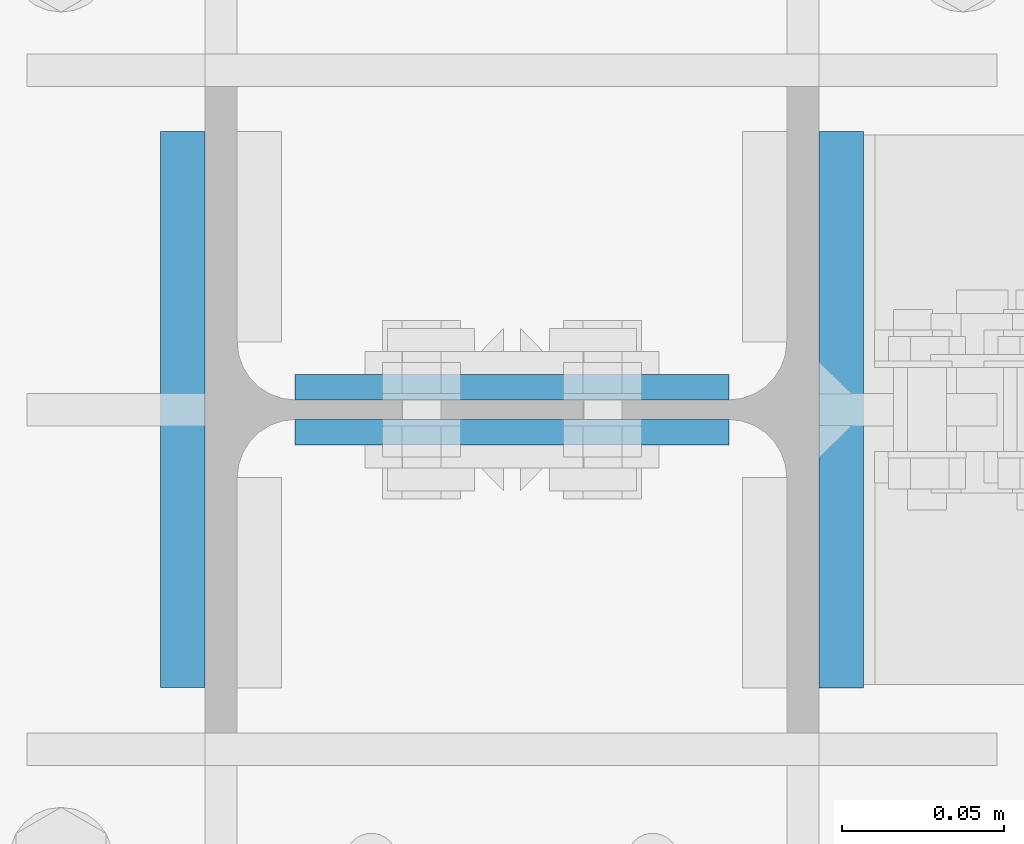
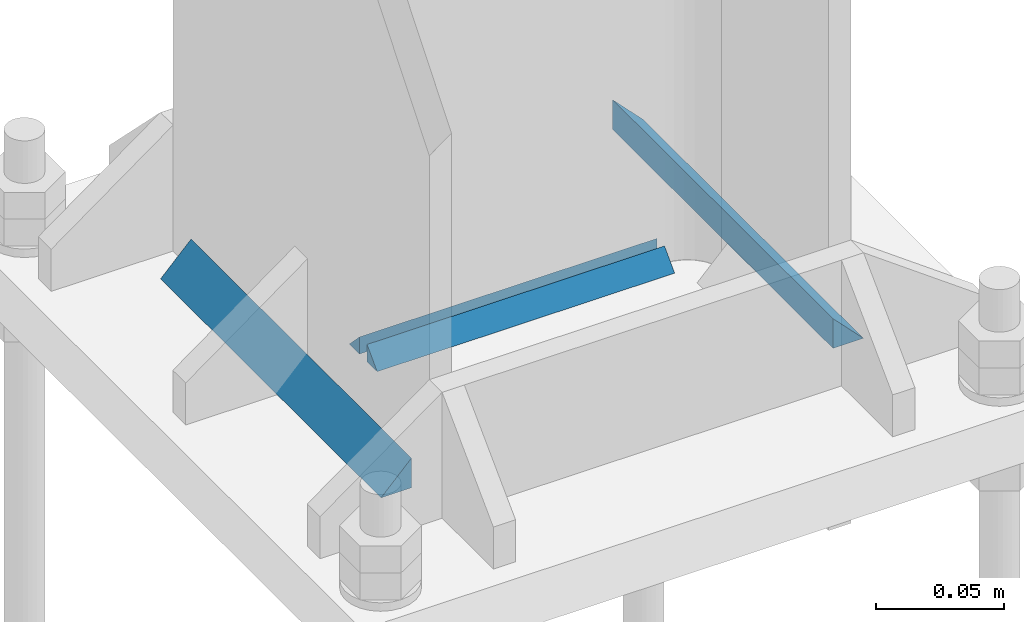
# One storey, part 37 of 251: 8 fasteners.
"""IFC4 building model written with IfcOpenShell, lengths in metres."""

import ifcopenshell
import ifcopenshell.guid

model = None  # the IFC model being written
_history = None  # IfcOwnerHistory: only IFC2X3 demands one
_inside = {}  # id of a spatial element -> (the spatial element, [elements in it])
_under = {}  # id of a project, library or spatial element -> (it, [spatial elements below it])
_declared = {}  # id of a project -> (the project, [libraries it declares])
_typed = {}  # id of a type object -> (the type object, [elements of that type])
_made_of = {}  # id of a material, layer set ... -> (it, [elements and type objects made of it])


def new_model(schema):
    """Start an empty IFC model of exactly this schema.

    Asked for "IFC4X3", IfcOpenShell would pick the latest addendum, in which some entities
    have other attributes; the version numbers below select the first issue.
    IFC2X3 requires an IfcOwnerHistory on every rooted entity: one is made here for all.
    """
    global model, _history
    if schema == "IFC4X3":
        model = ifcopenshell.file(schema_version=(4, 3, 0, 0))
    else:
        model = ifcopenshell.file(schema=schema)
    _inside.clear()
    _under.clear()
    _declared.clear()
    _typed.clear()
    _made_of.clear()
    _history = None
    if model.schema == "IFC2X3":
        org = make("IfcOrganization", Name="unknown")
        user = make(
            "IfcPersonAndOrganization",
            ThePerson=make("IfcPerson", FamilyName="unknown"),
            TheOrganization=org,
        )
        app = make(
            "IfcApplication",
            ApplicationDeveloper=org,
            Version="unknown",
            ApplicationFullName="unknown",
            ApplicationIdentifier="unknown",
        )
        _history = make(
            "IfcOwnerHistory",
            OwningUser=user,
            OwningApplication=app,
            ChangeAction="ADDED",
            CreationDate=0,
        )
    return model


def make(cls, **values):
    """One entity of the class cls with the attributes given. An attribute that is None is left unset."""
    return model.create_entity(
        cls, **{name: value for name, value in values.items() if value is not None}
    )


def rooted(cls, **values):
    """An entity with a GlobalId (a new one), such as an element, a storey or a relation."""
    return make(cls, GlobalId=ifcopenshell.guid.new(), OwnerHistory=_history, **values)


def si_unit(unit_type, name, prefix=None):
    """IfcSIUnit, for example si_unit("LENGTHUNIT", "METRE", prefix="MILLI")."""
    return make("IfcSIUnit", UnitType=unit_type, Prefix=prefix, Name=name)


def assignment(units):
    """IfcUnitAssignment: the units of a project."""
    return None if units is None else make("IfcUnitAssignment", Units=units)


def point(xyz):
    """IfcCartesianPoint."""
    return None if xyz is None else make("IfcCartesianPoint", Coordinates=xyz)


def direction(xyz):
    """IfcDirection."""
    return None if xyz is None else make("IfcDirection", DirectionRatios=xyz)


def frame(location, z_axis=None, x_axis=None):
    """IfcAxis2Placement3D, a coordinate frame: its origin and axes. An axis left out is left unset."""
    return make(
        "IfcAxis2Placement3D",
        Location=point(location),
        Axis=direction(z_axis),
        RefDirection=direction(x_axis),
    )


def origin_with_axes():
    """The frame at (0, 0, 0) with the z axis (0, 0, 1) and the x axis (1, 0, 0) written out."""
    return frame((0.0, 0.0, 0.0), z_axis=(0.0, 0.0, 1.0), x_axis=(1.0, 0.0, 0.0))


def place(relative_to, where):
    """IfcLocalPlacement: puts the frame where relative to a parent placement (None: the world)."""
    return make(
        "IfcLocalPlacement", PlacementRelTo=relative_to, RelativePlacement=where
    )


def context(
    kind, dimensions, precision=None, world=None, true_north=None, identifier=None
):
    """IfcGeometricRepresentationContext, for example the 3D "Model" context."""
    return make(
        "IfcGeometricRepresentationContext",
        ContextIdentifier=identifier,
        ContextType=kind,
        CoordinateSpaceDimension=dimensions,
        Precision=precision,
        WorldCoordinateSystem=world,
        TrueNorth=true_north,
    )


def project(units=None, contexts=None):
    """IfcProject with its units and contexts."""
    return rooted(
        "IfcProject",
        Name="project",
        RepresentationContexts=contexts,
        UnitsInContext=assignment(units),
    )


def spatial(cls, under=None, at=None, **own):
    """A site, building, storey or space (cls), placed at a placement, below another one or the project."""
    s = rooted(cls, ObjectPlacement=at, **own)
    if under is not None:
        _under.setdefault(under.id(), (under, []))[1].append(s)
    return s


def polyline(points):
    """IfcPolyline through the points."""
    return make("IfcPolyline", Points=[point(p) for p in points])


def outline(outer, holes=None, kind="AREA"):
    """IfcArbitraryClosedProfileDef: a profile drawn as a closed curve; with holes, ...WithVoids."""
    if holes is None:
        return make("IfcArbitraryClosedProfileDef", ProfileType=kind, OuterCurve=outer)
    return make(
        "IfcArbitraryProfileDefWithVoids",
        ProfileType=kind,
        OuterCurve=outer,
        InnerCurves=holes,
    )


def extrude(swept, where, along, depth):
    """IfcExtrudedAreaSolid: the profile swept, set in the frame where, extruded along a direction by depth."""
    return make(
        "IfcExtrudedAreaSolid",
        SweptArea=swept,
        Position=where,
        ExtrudedDirection=direction(along),
        Depth=depth,
    )


def shape(context_of_items, identifier, shape_type, items):
    """IfcShapeRepresentation: the items that make up one representation, for example the "Body"."""
    return make(
        "IfcShapeRepresentation",
        ContextOfItems=context_of_items,
        RepresentationIdentifier=identifier,
        RepresentationType=shape_type,
        Items=items,
    )


def made_of(thing, what):
    """Note that an element or type object is made of a material, layer set ...; save() writes the relation."""
    if what is not None:
        _made_of.setdefault(what.id(), (what, []))[1].append(thing)
    return thing


def type_object(cls, material=None, **own):
    """A type object (cls), such as IfcWallType, which elements share."""
    return made_of(rooted(cls, **own), material)


def element(
    cls,
    number,
    at=None,
    inside=None,
    cuts=None,
    type_object=None,
    material=None,
    context=None,
    identifier="Body",
    shape_type=None,
    held_by="IfcProductDefinitionShape",
    body=None,
    shapes=None,
    **own,
):
    """One element of the class cls, such as IfcWall. Its Tag is "e" and its number.

    at: its placement. inside: the storey or other place that contains it. cuts: it is an
    opening in that element (IfcRelVoidsElement). A single representation is given by context,
    identifier, shape_type and body (its items); several are given by shapes. held_by: the class
    of the entity that holds the representations. save() writes the other relations.
    """
    e = rooted(cls, Tag="e%d" % number, ObjectPlacement=at, **own)
    if body is not None:
        shapes = [shape(context, identifier, shape_type, body)]
    if shapes is not None:
        e.Representation = make(held_by, Representations=shapes)
    if inside is not None:
        _inside.setdefault(inside.id(), (inside, []))[1].append(e)
    if cuts is not None:
        rooted(
            "IfcRelVoidsElement", RelatingBuildingElement=cuts, RelatedOpeningElement=e
        )
    if type_object is not None:
        _typed.setdefault(type_object.id(), (type_object, []))[1].append(e)
    return made_of(e, material)


def aggregate(whole, parts):
    """IfcRelAggregates: a whole, such as a stair, and the parts it consists of."""
    return rooted("IfcRelAggregates", RelatingObject=whole, RelatedObjects=parts)


def save(model, path):
    """Write the relations noted so far, then the file.

    IfcRelAggregates (storeys below a building ...), IfcRelContainedInSpatialStructure (elements
    in a storey), IfcRelDefinesByType, IfcRelAssociatesMaterial and IfcRelDeclares: one each for
    every whole, place, type object, material and project.
    """
    for whole, parts in _under.values():
        aggregate(whole, parts)
    for where, things in _inside.values():
        rooted(
            "IfcRelContainedInSpatialStructure",
            RelatedElements=things,
            RelatingStructure=where,
        )
    for kind, things in _typed.values():
        rooted("IfcRelDefinesByType", RelatedObjects=things, RelatingType=kind)
    for what, things in _made_of.values():
        rooted("IfcRelAssociatesMaterial", RelatedObjects=things, RelatingMaterial=what)
    for by, libraries in _declared.values():
        rooted("IfcRelDeclares", RelatingContext=by, RelatedDefinitions=libraries)
    model.write(path)


model = new_model("IFC4")

# Units and contexts
model_context = context("Model", 3, precision=1e-05, world=origin_with_axes())
ifc_project = project(units=[si_unit("LENGTHUNIT", "METRE"), si_unit("AREAUNIT", "SQUARE_METRE"), si_unit("VOLUMEUNIT", "CUBIC_METRE"), si_unit("MASSUNIT", "GRAM", prefix="KILO"), si_unit("TIMEUNIT", "SECOND"), si_unit("PLANEANGLEUNIT", "RADIAN"), si_unit("SOLIDANGLEUNIT", "STERADIAN"), si_unit("THERMODYNAMICTEMPERATUREUNIT", "DEGREE_CELSIUS")], contexts=[model_context])

# Site, building, storey
placement_1 = place(None, origin_with_axes())
site = spatial("IfcSite", under=ifc_project, at=placement_1, Name="Italia", CompositionType="ELEMENT")
building = spatial("IfcBuilding", under=site, at=placement_1, Name="Deposito", CompositionType="ELEMENT")
storey = spatial("IfcBuildingStorey", under=building, at=placement_1, Name="Storey 0", CompositionType="ELEMENT", Elevation=0.0)

# Fasteners
fastener_type_1 = type_object("IfcFastenerType", Name="Collegamenti 0014_-001 0016_-054 0018_-056 0032_-002 0033_-058 0047_-003 0048_-060 0062_-004 0063_-005 0079_-008", PredefinedType="WELD")
placement_2 = place(placement_1, origin_with_axes())
fastener_1_placement = place(placement_2, origin_with_axes())
element("IfcFastener", 1, at=fastener_1_placement, inside=storey, type_object=fastener_type_1, Name="Collegamenti 0014_-001 0016_-054 0018_-056 0032_-002 0033_-058 0047_-003 0048_-060 0062_-004 0063_-005 0079_-008", context=model_context, shape_type="SweptSolid", body=[
    extrude(outline(polyline([(0.0, 0.0), (0.0137482, 0.0141734), (0.0137482, 0.0), (0.0, 0.0)])), frame((5.9413, 15.0861, 0.07495), z_axis=(0.0, -1.0, 0.0), x_axis=(1.0, 0.0, 0.0)), (0.0, 0.0, 1.0), 0.1721),
])
fastener_type_2 = type_object("IfcFastenerType", Name="Collegamenti 0014_-001 0016_-054 0018_-056 0032_-002 0033_-058 0047_-003 0048_-060 0062_-004 0063_-005 0079_-008", PredefinedType="WELD")
fastener_2_placement = place(placement_2, origin_with_axes())
element("IfcFastener", 2, at=fastener_2_placement, inside=storey, type_object=fastener_type_2, Name="Collegamenti 0014_-001 0016_-054 0018_-056 0032_-002 0033_-058 0047_-003 0048_-060 0062_-004 0063_-005 0079_-008", context=model_context, shape_type="SweptSolid", body=[
    extrude(outline(polyline([(0.0, 0.0), (0.0137482, 0.0141734), (0.0137482, 0.0), (0.0, 0.0)])), frame((6.1587, 14.9139, 0.07495), z_axis=(0.0, 1.0, 0.0), x_axis=(-1.0, 0.0, 0.0)), (0.0, 0.0, 1.0), 0.1721),
])
fastener_type_3 = type_object("IfcFastenerType", Name="Collegamenti 0014_-001 0016_-054 0018_-056 0032_-002 0033_-058 0047_-003 0048_-060 0062_-004 0063_-005 0079_-008", PredefinedType="WELD")
fastener_3_placement = place(placement_2, origin_with_axes())
element("IfcFastener", 3, at=fastener_3_placement, inside=storey, type_object=fastener_type_3, Name="Collegamenti 0014_-001 0016_-054 0018_-056 0032_-002 0033_-058 0047_-003 0048_-060 0062_-004 0063_-005 0079_-008", context=model_context, shape_type="SweptSolid", body=[
    extrude(outline(polyline([(0.0, 0.0), (0.00792885, 0.00817336), (0.00792885, 0.0), (0.0, 0.0)])), frame((6.11705, 15.0109, 0.07495), z_axis=(-1.0, 0.0, 0.0), x_axis=(0.0, -1.0, 0.0)), (0.0, 0.0, 1.0), 0.134098),
])
fastener_type_4 = type_object("IfcFastenerType", Name="Collegamenti 0014_-001 0016_-054 0018_-056 0032_-002 0033_-058 0047_-003 0048_-060 0062_-004 0063_-005 0079_-008", PredefinedType="WELD")
fastener_4_placement = place(placement_2, origin_with_axes())
element("IfcFastener", 4, at=fastener_4_placement, inside=storey, type_object=fastener_type_4, Name="Collegamenti 0014_-001 0016_-054 0018_-056 0032_-002 0033_-058 0047_-003 0048_-060 0062_-004 0063_-005 0079_-008", context=model_context, shape_type="SweptSolid", body=[
    extrude(outline(polyline([(0.0, 0.0), (0.00792885, 0.00817336), (0.00792885, 0.0), (0.0, 0.0)])), frame((5.98295, 14.9891, 0.07495), z_axis=(1.0, 0.0, 0.0), x_axis=(0.0, 1.0, 0.0)), (0.0, 0.0, 1.0), 0.134098),
])
fastener_type_5 = type_object("IfcFastenerType", Name="Collegamenti 0014_-001 0016_-054 0018_-056 0032_-002 0033_-058 0047_-003 0048_-060 0062_-004 0063_-005 0079_-008", PredefinedType="WELD")
fastener_5_placement = place(placement_2, origin_with_axes())
element("IfcFastener", 5, at=fastener_5_placement, inside=storey, type_object=fastener_type_5, Name="Collegamenti 0014_-001 0016_-054 0018_-056 0032_-002 0033_-058 0047_-003 0048_-060 0062_-004 0063_-005 0079_-008", context=model_context, shape_type="SweptSolid", body=[
    extrude(outline(polyline([(0.0, 0.0), (0.0137482, 0.0141734), (0.0137482, 0.0), (0.0, 0.0)])), frame((5.9413, 15.0861, 0.07495), z_axis=(0.0, -1.0, 0.0), x_axis=(1.0, 0.0, 0.0)), (0.0, 0.0, 1.0), 0.1721),
])
fastener_type_6 = type_object("IfcFastenerType", Name="Collegamenti 0014_-001 0016_-054 0018_-056 0032_-002 0033_-058 0047_-003 0048_-060 0062_-004 0063_-005 0079_-008", PredefinedType="WELD")
fastener_6_placement = place(placement_2, origin_with_axes())
element("IfcFastener", 6, at=fastener_6_placement, inside=storey, type_object=fastener_type_6, Name="Collegamenti 0014_-001 0016_-054 0018_-056 0032_-002 0033_-058 0047_-003 0048_-060 0062_-004 0063_-005 0079_-008", context=model_context, shape_type="SweptSolid", body=[
    extrude(outline(polyline([(0.0, 0.0), (0.0137482, 0.0141734), (0.0137482, 0.0), (0.0, 0.0)])), frame((6.1587, 14.9139, 0.07495), z_axis=(0.0, 1.0, 0.0), x_axis=(-1.0, 0.0, 0.0)), (0.0, 0.0, 1.0), 0.1721),
])
fastener_type_7 = type_object("IfcFastenerType", Name="Collegamenti 0014_-001 0016_-054 0018_-056 0032_-002 0033_-058 0047_-003 0048_-060 0062_-004 0063_-005 0079_-008", PredefinedType="WELD")
fastener_7_placement = place(placement_2, origin_with_axes())
element("IfcFastener", 7, at=fastener_7_placement, inside=storey, type_object=fastener_type_7, Name="Collegamenti 0014_-001 0016_-054 0018_-056 0032_-002 0033_-058 0047_-003 0048_-060 0062_-004 0063_-005 0079_-008", context=model_context, shape_type="SweptSolid", body=[
    extrude(outline(polyline([(0.0, 0.0), (0.00792885, 0.00817336), (0.00792885, 0.0), (0.0, 0.0)])), frame((6.11705, 15.0109, 0.07495), z_axis=(-1.0, 0.0, 0.0), x_axis=(0.0, -1.0, 0.0)), (0.0, 0.0, 1.0), 0.134098),
])
fastener_type_8 = type_object("IfcFastenerType", Name="Collegamenti 0014_-001 0016_-054 0018_-056 0032_-002 0033_-058 0047_-003 0048_-060 0062_-004 0063_-005 0079_-008", PredefinedType="WELD")
fastener_8_placement = place(placement_2, origin_with_axes())
element("IfcFastener", 8, at=fastener_8_placement, inside=storey, type_object=fastener_type_8, Name="Collegamenti 0014_-001 0016_-054 0018_-056 0032_-002 0033_-058 0047_-003 0048_-060 0062_-004 0063_-005 0079_-008", context=model_context, shape_type="SweptSolid", body=[
    extrude(outline(polyline([(0.0, 0.0), (0.00792885, 0.00817336), (0.00792885, 0.0), (0.0, 0.0)])), frame((5.98295, 14.9891, 0.07495), z_axis=(1.0, 0.0, 0.0), x_axis=(0.0, 1.0, 0.0)), (0.0, 0.0, 1.0), 0.134098),
])

save(model, "model.ifc")
